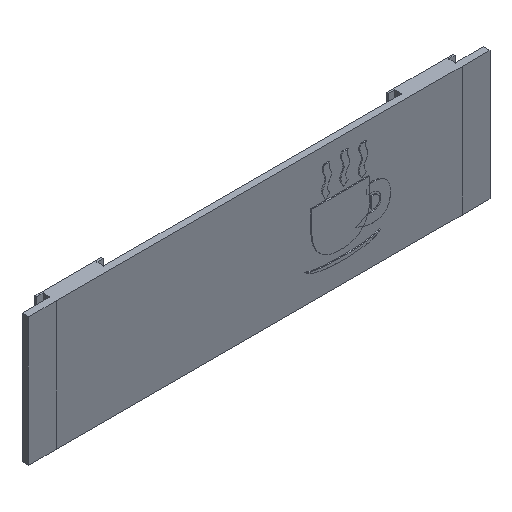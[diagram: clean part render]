
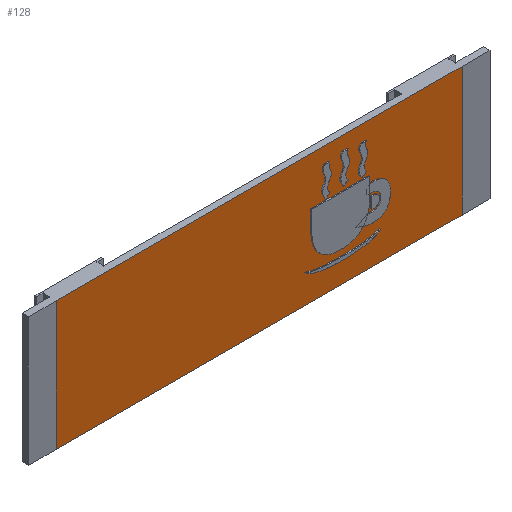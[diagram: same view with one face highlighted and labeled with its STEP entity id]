
A CAD part, isometric view. The second image highlights one B-rep face of the part: STEP entity #128.
In plain terms, the highlighted planar face has unit normal (0, -1, 0).
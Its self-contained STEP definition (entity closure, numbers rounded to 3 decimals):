
#128=ADVANCED_FACE('',(#215),#1303,.T.);
#215=FACE_OUTER_BOUND('',#302,.T.);
#302=EDGE_LOOP('',(#588,#589,#590,#591));
#588=ORIENTED_EDGE('',*,*,#871,.F.);
#589=ORIENTED_EDGE('',*,*,#869,.F.);
#590=ORIENTED_EDGE('',*,*,#868,.F.);
#591=ORIENTED_EDGE('',*,*,#865,.F.);
#865=EDGE_CURVE('',#1213,#1214,#1075,.T.);
#868=EDGE_CURVE('',#1214,#1220,#1078,.T.);
#869=EDGE_CURVE('',#1220,#1221,#1079,.T.);
#871=EDGE_CURVE('',#1221,#1213,#1081,.T.);
#1075=B_SPLINE_CURVE_WITH_KNOTS('',1,(#2452,#2453),.UNSPECIFIED.,.F.,.F.,
(2,2),(0.,60.),.UNSPECIFIED.);
#1078=B_SPLINE_CURVE_WITH_KNOTS('',1,(#2458,#2459),.UNSPECIFIED.,.F.,.F.,
(2,2),(60.,249.1),.UNSPECIFIED.);
#1079=B_SPLINE_CURVE_WITH_KNOTS('',1,(#2460,#2461),.UNSPECIFIED.,.F.,.F.,
(2,2),(249.1,309.1),.UNSPECIFIED.);
#1081=B_SPLINE_CURVE_WITH_KNOTS('',1,(#2464,#2465),.UNSPECIFIED.,.F.,.F.,
(2,2),(309.1,498.2),.UNSPECIFIED.);
#1213=VERTEX_POINT('',#2326);
#1214=VERTEX_POINT('',#2327);
#1220=VERTEX_POINT('',#2333);
#1221=VERTEX_POINT('',#2334);
#1303=PLANE('',#1474);
#1474=AXIS2_PLACEMENT_3D('',#2278,#1558,$);
#1558=DIRECTION('',(0.,-1.,0.));
#2278=CARTESIAN_POINT('',(-264.55,650.,-39.));
#2326=CARTESIAN_POINT('',(-264.55,650.,-39.));
#2327=CARTESIAN_POINT('',(-264.55,650.,21.));
#2333=CARTESIAN_POINT('',(-75.45,650.,21.));
#2334=CARTESIAN_POINT('',(-75.45,650.,-39.));
#2452=CARTESIAN_POINT('',(-264.55,650.,-39.));
#2453=CARTESIAN_POINT('',(-264.55,650.,21.));
#2458=CARTESIAN_POINT('',(-264.55,650.,21.));
#2459=CARTESIAN_POINT('',(-75.45,650.,21.));
#2460=CARTESIAN_POINT('',(-75.45,650.,21.));
#2461=CARTESIAN_POINT('',(-75.45,650.,-39.));
#2464=CARTESIAN_POINT('',(-75.45,650.,-39.));
#2465=CARTESIAN_POINT('',(-264.55,650.,-39.));
